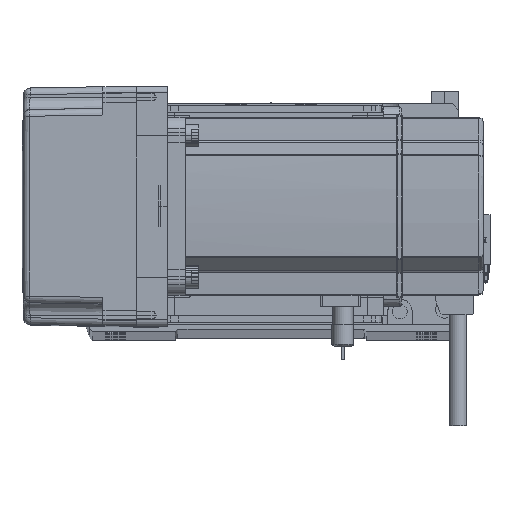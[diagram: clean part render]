
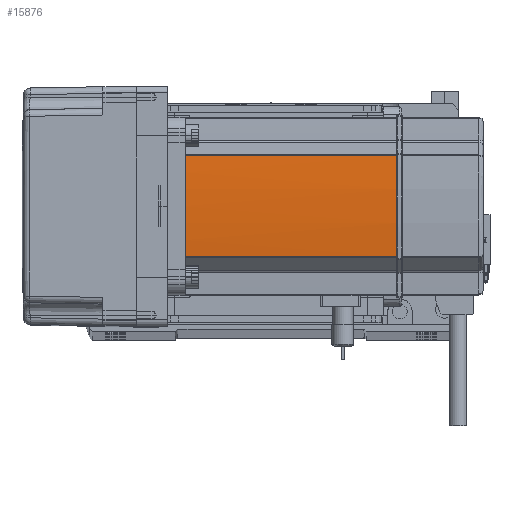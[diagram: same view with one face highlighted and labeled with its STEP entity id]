
A CAD part, top view. The second image highlights one B-rep face of the part: STEP entity #15876.
In plain terms, the highlighted cylindrical face has radius 270 mm (diameter 540 mm), a partial arc.
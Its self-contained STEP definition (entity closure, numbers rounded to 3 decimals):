
#507 = EDGE_CURVE ( 'NONE', #26397, #48350, #9373, .T. ) ;
#657 = CARTESIAN_POINT ( 'NONE',  ( 40., -0.127, 134. ) ) ;
#2567 = CARTESIAN_POINT ( 'NONE',  ( 40., 0.127, 134. ) ) ;
#3463 = CARTESIAN_POINT ( 'NONE',  ( -230., 0., 39. ) ) ;
#4959 = EDGE_CURVE ( 'NONE', #26447, #47091, #5889, .T. ) ;
#5660 = VERTEX_POINT ( 'NONE', #54032 ) ;
#5889 = LINE ( 'NONE', #57790, #56657 ) ;
#6581 = ORIENTED_EDGE ( 'NONE', *, *, #507, .F. ) ;
#9310 = DIRECTION ( 'NONE',  ( 0., 0., -1. ) ) ;
#9373 = B_SPLINE_CURVE_WITH_KNOTS ( 'NONE', 3,
 ( #43042, #57672, #28013, #18903 ),
 .UNSPECIFIED., .F., .F.,
 ( 4, 4 ),
 ( 0., 1. ),
 .UNSPECIFIED. ) ;
#10679 = ORIENTED_EDGE ( 'NONE', *, *, #4959, .T. ) ;
#11155 = CARTESIAN_POINT ( 'NONE',  ( 39.042, -22.724, 134. ) ) ;
#12233 = DIRECTION ( 'NONE',  ( -1., 0., 0. ) ) ;
#12486 = EDGE_CURVE ( 'NONE', #5660, #48350, #39976, .T. ) ;
#13815 = VECTOR ( 'NONE', #24349, 1000. ) ;
#14025 = CIRCLE ( 'NONE', #22671, 270. ) ;
#14962 = EDGE_CURVE ( 'NONE', #23897, #47091, #54563, .T. ) ;
#15876 = ADVANCED_FACE ( 'NONE', ( #24185 ), #44681, .T. ) ;
#16741 = AXIS2_PLACEMENT_3D ( 'NONE', #22405, #56072, #12233 ) ;
#18133 = CARTESIAN_POINT ( 'NONE',  ( -230., 0., 134. ) ) ;
#18173 = EDGE_LOOP ( 'NONE', ( #10679, #37929, #41804, #50891, #6581, #51480 ) ) ;
#18566 = DIRECTION ( 'NONE',  ( 0., 0., -1. ) ) ;
#18903 = CARTESIAN_POINT ( 'NONE',  ( 40., 0.127, 134. ) ) ;
#22405 = CARTESIAN_POINT ( 'NONE',  ( -230., 0., 58. ) ) ;
#22671 = AXIS2_PLACEMENT_3D ( 'NONE', #18133, #18566, #61378 ) ;
#23173 = CARTESIAN_POINT ( 'NONE',  ( -230., 0., 134. ) ) ;
#23897 = VERTEX_POINT ( 'NONE', #54822 ) ;
#24013 = DIRECTION ( 'NONE',  ( -1., 0., 0. ) ) ;
#24185 = FACE_OUTER_BOUND ( 'NONE', #18173, .T. ) ;
#24349 = DIRECTION ( 'NONE',  ( 0., 0., 1. ) ) ;
#26397 = VERTEX_POINT ( 'NONE', #657 ) ;
#26447 = VERTEX_POINT ( 'NONE', #11155 ) ;
#28013 = CARTESIAN_POINT ( 'NONE',  ( 40., 0.042, 134. ) ) ;
#28470 = AXIS2_PLACEMENT_3D ( 'NONE', #23173, #47743, #24013 ) ;
#29242 = CARTESIAN_POINT ( 'NONE',  ( 39.042, 22.724, 58. ) ) ;
#32227 = DIRECTION ( 'NONE',  ( -1., 0., 0. ) ) ;
#37929 = ORIENTED_EDGE ( 'NONE', *, *, #14962, .F. ) ;
#38319 = AXIS2_PLACEMENT_3D ( 'NONE', #3463, #47418, #32227 ) ;
#39976 = CIRCLE ( 'NONE', #28470, 270. ) ;
#41804 = ORIENTED_EDGE ( 'NONE', *, *, #43175, .T. ) ;
#43042 = CARTESIAN_POINT ( 'NONE',  ( 40., -0.127, 134. ) ) ;
#43175 = EDGE_CURVE ( 'NONE', #23897, #5660, #46402, .T. ) ;
#44681 = CYLINDRICAL_SURFACE ( 'NONE', #16741, 270. ) ;
#45987 = CARTESIAN_POINT ( 'NONE',  ( 39.042, -22.724, 39. ) ) ;
#46402 = LINE ( 'NONE', #29242, #13815 ) ;
#47091 = VERTEX_POINT ( 'NONE', #45987 ) ;
#47418 = DIRECTION ( 'NONE',  ( 0., 0., -1. ) ) ;
#47743 = DIRECTION ( 'NONE',  ( 0., 0., -1. ) ) ;
#48350 = VERTEX_POINT ( 'NONE', #2567 ) ;
#49943 = EDGE_CURVE ( 'NONE', #26397, #26447, #14025, .T. ) ;
#50891 = ORIENTED_EDGE ( 'NONE', *, *, #12486, .T. ) ;
#51480 = ORIENTED_EDGE ( 'NONE', *, *, #49943, .T. ) ;
#54032 = CARTESIAN_POINT ( 'NONE',  ( 39.042, 22.724, 134. ) ) ;
#54563 = CIRCLE ( 'NONE', #38319, 270. ) ;
#54822 = CARTESIAN_POINT ( 'NONE',  ( 39.042, 22.724, 39. ) ) ;
#56072 = DIRECTION ( 'NONE',  ( 0., 0., -1. ) ) ;
#56657 = VECTOR ( 'NONE', #9310, 1000. ) ;
#57672 = CARTESIAN_POINT ( 'NONE',  ( 40., -0.042, 134. ) ) ;
#57790 = CARTESIAN_POINT ( 'NONE',  ( 39.042, -22.724, 58. ) ) ;
#61378 = DIRECTION ( 'NONE',  ( -1., 0., 0. ) ) ;
